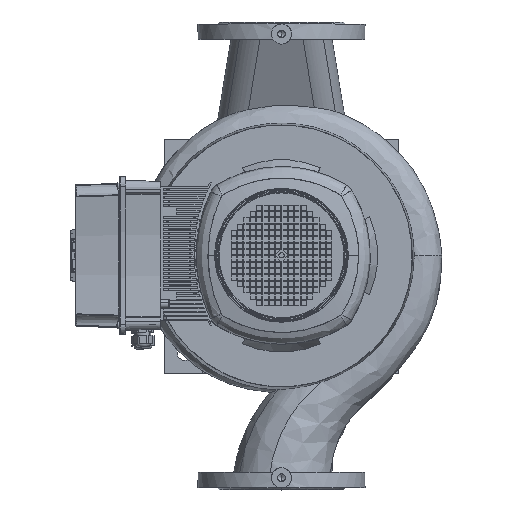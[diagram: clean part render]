
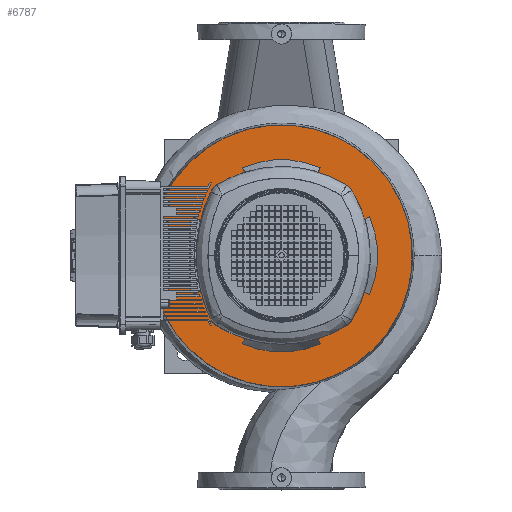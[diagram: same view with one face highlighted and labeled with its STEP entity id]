
A CAD part, top view. The second image highlights one B-rep face of the part: STEP entity #6787.
In plain terms, the highlighted planar face has unit normal (0, 0, 1) as drawn and (1, 0, 0) by its records, which use the part's own axes.
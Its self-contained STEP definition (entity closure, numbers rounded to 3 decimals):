
#6787=ADVANCED_FACE('',(#17428,#17429),#17430,.T.);
#6811=EDGE_CURVE('',#17469,#17470,#17471,.T.);
#6835=EDGE_CURVE('',#17513,#17514,#17515,.T.);
#6843=EDGE_CURVE('',#17523,#17526,#17527,.T.);
#6851=EDGE_CURVE('',#17535,#17538,#17539,.T.);
#6857=EDGE_CURVE('',#17542,#17514,#17547,.T.);
#6859=EDGE_CURVE('',#17549,#17526,#17550,.T.);
#6867=EDGE_CURVE('',#17561,#17557,#17562,.T.);
#6875=EDGE_CURVE('',#17572,#17568,#17573,.T.);
#6883=EDGE_CURVE('',#17579,#17582,#17583,.T.);
#6893=EDGE_CURVE('',#17593,#17523,#17596,.T.);
#6899=EDGE_CURVE('',#17601,#17535,#17604,.T.);
#6907=EDGE_CURVE('',#17612,#17607,#17615,.T.);
#6909=EDGE_CURVE('',#17538,#17557,#17617,.T.);
#6913=EDGE_CURVE('',#17607,#17568,#17621,.T.);
#6917=EDGE_CURVE('',#17582,#17513,#17625,.T.);
#6921=EDGE_CURVE('',#17549,#17601,#17629,.T.);
#6925=EDGE_CURVE('',#17561,#17612,#17633,.T.);
#6927=EDGE_CURVE('',#17542,#17593,#17635,.T.);
#6931=EDGE_CURVE('',#17470,#17469,#17639,.T.);
#6933=EDGE_CURVE('',#17572,#17579,#17641,.T.);
#17428=FACE_OUTER_BOUND('',#33021,.T.);
#17429=FACE_BOUND('',#33022,.T.);
#17430=PLANE('',#33023);
#17469=VERTEX_POINT('',#33064);
#17470=VERTEX_POINT('',#33065);
#17471=CIRCLE('',#33066,196.0);
#17513=VERTEX_POINT('',#33120);
#17514=VERTEX_POINT('',#33121);
#17515=CIRCLE('',#33122,132.799);
#17523=VERTEX_POINT('',#33142);
#17526=VERTEX_POINT('',#33155);
#17527=CIRCLE('',#33156,132.799);
#17535=VERTEX_POINT('',#33176);
#17538=VERTEX_POINT('',#33189);
#17539=CIRCLE('',#33190,132.799);
#17542=VERTEX_POINT('',#33194);
#17547=LINE('',#33211,#33212);
#17549=VERTEX_POINT('',#33215);
#17550=LINE('',#33216,#33217);
#17557=VERTEX_POINT('',#33237);
#17561=VERTEX_POINT('',#33251);
#17562=LINE('',#33252,#33253);
#17568=VERTEX_POINT('',#33272);
#17572=VERTEX_POINT('',#33286);
#17573=LINE('',#33287,#33288);
#17579=VERTEX_POINT('',#33307);
#17582=VERTEX_POINT('',#33320);
#17583=LINE('',#33321,#33322);
#17593=VERTEX_POINT('',#33347);
#17596=LINE('',#33360,#33361);
#17601=VERTEX_POINT('',#33369);
#17604=LINE('',#33382,#33383);
#17607=VERTEX_POINT('',#33387);
#17612=VERTEX_POINT('',#33404);
#17615=LINE('',#33417,#33418);
#17617=CIRCLE('',#33421,132.799);
#17621=CIRCLE('',#33427,132.799);
#17625=CIRCLE('',#33433,132.799);
#17629=CIRCLE('',#33439,144.0);
#17633=CIRCLE('',#33445,144.0);
#17635=CIRCLE('',#33448,144.0);
#17639=CIRCLE('',#33454,196.0);
#17641=CIRCLE('',#33457,144.0);
#33021=EDGE_LOOP('',(#59572,#59573));
#33022=EDGE_LOOP('',(#59574,#59575,#59576,#59577,#59578,#59579,#59580,#59581,#59582,#59583,#59584,#59585,#59586,#59587,#59588,#59589,#59590,#59591));
#33023=AXIS2_PLACEMENT_3D('',#59592,#59593,#59594);
#33064=CARTESIAN_POINT('',(20.0,196.0,0.0));
#33065=CARTESIAN_POINT('',(20.0,-196.0,0.));
#33066=AXIS2_PLACEMENT_3D('',#59694,#59695,#59696);
#33120=CARTESIAN_POINT('',(20.0,-132.799,0.));
#33121=CARTESIAN_POINT('',(20.0,-123.51,-48.794));
#33122=AXIS2_PLACEMENT_3D('',#59730,#59731,#59732);
#33142=CARTESIAN_POINT('',(20.0,-48.794,-123.51));
#33155=CARTESIAN_POINT('',(20.0,48.794,-123.51));
#33156=AXIS2_PLACEMENT_3D('',#59736,#59737,#59738);
#33176=CARTESIAN_POINT('',(20.0,123.51,-48.794));
#33189=CARTESIAN_POINT('',(20.0,132.799,0.));
#33190=AXIS2_PLACEMENT_3D('',#59742,#59743,#59744);
#33194=CARTESIAN_POINT('',(20.0,-134.395,-51.711));
#33211=CARTESIAN_POINT('',(20.0,-134.395,-51.711));
#33212=VECTOR('',#59746,1.0);
#33215=CARTESIAN_POINT('',(20.0,51.711,-134.395));
#33216=CARTESIAN_POINT('',(20.0,51.711,-134.395));
#33217=VECTOR('',#59747,1.0);
#33237=CARTESIAN_POINT('',(20.0,123.51,48.794));
#33251=CARTESIAN_POINT('',(20.0,134.395,51.711));
#33252=CARTESIAN_POINT('',(20.0,134.395,51.711));
#33253=VECTOR('',#59749,1.0);
#33272=CARTESIAN_POINT('',(20.0,-48.794,123.51));
#33286=CARTESIAN_POINT('',(20.0,-51.711,134.395));
#33287=CARTESIAN_POINT('',(20.0,-51.711,134.395));
#33288=VECTOR('',#59751,1.0);
#33307=CARTESIAN_POINT('',(20.0,-134.395,51.711));
#33320=CARTESIAN_POINT('',(20.0,-123.51,48.794));
#33321=CARTESIAN_POINT('',(20.0,-134.395,51.711));
#33322=VECTOR('',#59753,1.0);
#33347=CARTESIAN_POINT('',(20.0,-51.711,-134.395));
#33360=CARTESIAN_POINT('',(20.0,-51.711,-134.395));
#33361=VECTOR('',#59756,1.0);
#33369=CARTESIAN_POINT('',(20.0,134.395,-51.711));
#33382=CARTESIAN_POINT('',(20.0,134.395,-51.711));
#33383=VECTOR('',#59758,1.0);
#33387=CARTESIAN_POINT('',(20.0,48.794,123.51));
#33404=CARTESIAN_POINT('',(20.0,51.711,134.395));
#33417=CARTESIAN_POINT('',(20.0,51.711,134.395));
#33418=VECTOR('',#59760,1.0);
#33421=AXIS2_PLACEMENT_3D('',#59761,#59762,#59763);
#33427=AXIS2_PLACEMENT_3D('',#59767,#59768,#59769);
#33433=AXIS2_PLACEMENT_3D('',#59773,#59774,#59775);
#33439=AXIS2_PLACEMENT_3D('',#59779,#59780,#59781);
#33445=AXIS2_PLACEMENT_3D('',#59785,#59786,#59787);
#33448=AXIS2_PLACEMENT_3D('',#59788,#59789,#59790);
#33454=AXIS2_PLACEMENT_3D('',#59794,#59795,#59796);
#33457=AXIS2_PLACEMENT_3D('',#59797,#59798,#59799);
#59572=ORIENTED_EDGE('',*,*,#6811,.T.);
#59573=ORIENTED_EDGE('',*,*,#6931,.T.);
#59574=ORIENTED_EDGE('',*,*,#6933,.F.);
#59575=ORIENTED_EDGE('',*,*,#6875,.T.);
#59576=ORIENTED_EDGE('',*,*,#6913,.F.);
#59577=ORIENTED_EDGE('',*,*,#6907,.F.);
#59578=ORIENTED_EDGE('',*,*,#6925,.F.);
#59579=ORIENTED_EDGE('',*,*,#6867,.T.);
#59580=ORIENTED_EDGE('',*,*,#6909,.F.);
#59581=ORIENTED_EDGE('',*,*,#6851,.F.);
#59582=ORIENTED_EDGE('',*,*,#6899,.F.);
#59583=ORIENTED_EDGE('',*,*,#6921,.F.);
#59584=ORIENTED_EDGE('',*,*,#6859,.T.);
#59585=ORIENTED_EDGE('',*,*,#6843,.F.);
#59586=ORIENTED_EDGE('',*,*,#6893,.F.);
#59587=ORIENTED_EDGE('',*,*,#6927,.F.);
#59588=ORIENTED_EDGE('',*,*,#6857,.T.);
#59589=ORIENTED_EDGE('',*,*,#6835,.F.);
#59590=ORIENTED_EDGE('',*,*,#6917,.F.);
#59591=ORIENTED_EDGE('',*,*,#6883,.F.);
#59592=CARTESIAN_POINT('',(20.0,170.0,0.0));
#59593=DIRECTION('',(1.0,0.0,0.0));
#59594=DIRECTION('',(0.0,0.0,-1.0));
#59694=CARTESIAN_POINT('',(20.0,0.0,0.0));
#59695=DIRECTION('',(1.0,0.0,0.0));
#59696=DIRECTION('',(0.0,1.0,0.0));
#59730=CARTESIAN_POINT('',(20.0,0.0,0.0));
#59731=DIRECTION('',(1.0,0.0,-0.0));
#59732=DIRECTION('',(0.0,1.0,0.));
#59736=CARTESIAN_POINT('',(20.0,0.0,0.0));
#59737=DIRECTION('',(1.0,0.0,-0.0));
#59738=DIRECTION('',(0.0,1.0,0.));
#59742=CARTESIAN_POINT('',(20.0,0.0,0.0));
#59743=DIRECTION('',(1.0,0.0,-0.0));
#59744=DIRECTION('',(0.0,1.0,0.));
#59746=DIRECTION('',(0.,0.966,0.259));
#59747=DIRECTION('',(0.,-0.259,0.966));
#59749=DIRECTION('',(0.,-0.966,-0.259));
#59751=DIRECTION('',(0.,0.259,-0.966));
#59753=DIRECTION('',(0.,0.966,-0.259));
#59756=DIRECTION('',(0.,0.259,0.966));
#59758=DIRECTION('',(0.,-0.966,0.259));
#59760=DIRECTION('',(0.,-0.259,-0.966));
#59761=CARTESIAN_POINT('',(20.0,0.0,0.0));
#59762=DIRECTION('',(1.0,0.0,-0.0));
#59763=DIRECTION('',(0.0,1.0,0.));
#59767=CARTESIAN_POINT('',(20.0,0.0,0.0));
#59768=DIRECTION('',(1.0,0.0,-0.0));
#59769=DIRECTION('',(0.0,1.0,0.));
#59773=CARTESIAN_POINT('',(20.0,0.0,0.0));
#59774=DIRECTION('',(1.0,0.0,-0.0));
#59775=DIRECTION('',(0.0,1.0,0.));
#59779=CARTESIAN_POINT('',(20.0,0.0,0.0));
#59780=DIRECTION('',(1.0,0.0,0.0));
#59781=DIRECTION('',(0.0,1.0,0.0));
#59785=CARTESIAN_POINT('',(20.0,0.0,0.0));
#59786=DIRECTION('',(1.0,0.0,0.0));
#59787=DIRECTION('',(0.0,1.0,0.0));
#59788=CARTESIAN_POINT('',(20.0,0.0,0.0));
#59789=DIRECTION('',(1.0,0.0,0.0));
#59790=DIRECTION('',(0.0,1.0,0.0));
#59794=CARTESIAN_POINT('',(20.0,0.0,0.0));
#59795=DIRECTION('',(1.0,0.0,0.0));
#59796=DIRECTION('',(0.0,1.0,0.0));
#59797=CARTESIAN_POINT('',(20.0,0.0,0.0));
#59798=DIRECTION('',(1.0,0.0,0.0));
#59799=DIRECTION('',(0.0,1.0,0.0));
